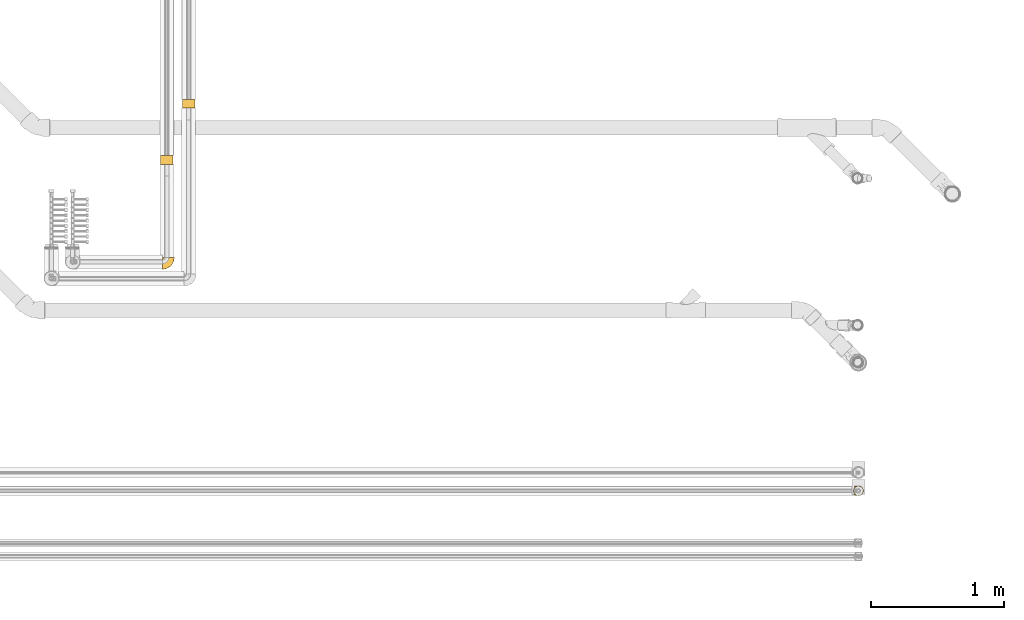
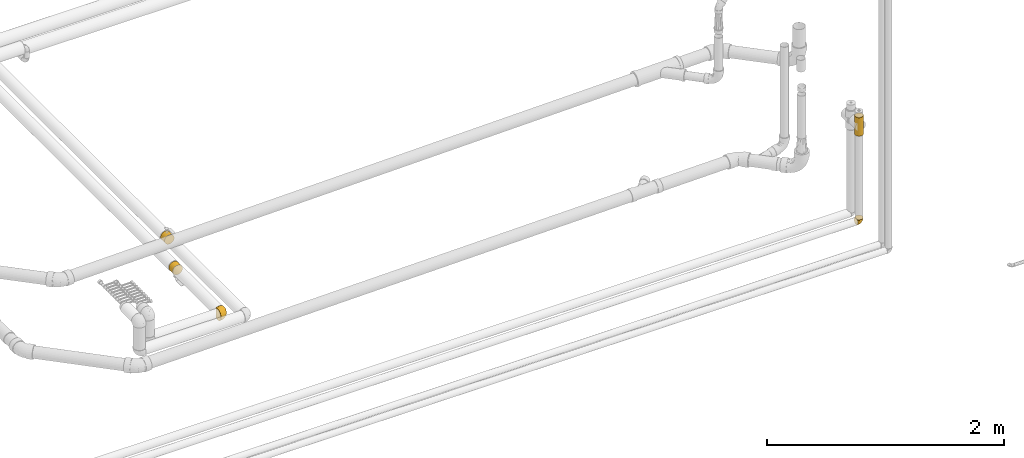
# One storey, part 19 of 83: 5 coverings.
"""IFC2X3 building model written with IfcOpenShell, lengths in millimetres."""

from ifc_helpers import new_model, entity, si_unit, converted_unit, derived_unit, direction, frame, origin_with_axes, place, context, subcontext, project, spatial, open_shell, surface_model, source, transform, mapped, element, save


model = new_model("IFC2X3")

# Units and contexts
model_context = context("Model", 3, precision=0.01, world=frame((0.0, 4.29681676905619e-09, 0.0)), true_north=direction((4.01073788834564e-13, 1.0)))
plan_context = context("Plan", 3, precision=0.01, world=frame((0.0, 4.29681676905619e-09, 0.0)), true_north=direction((4.01073788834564e-13, 1.0)))
body_context = subcontext(model_context, "Body", "Model", "MODEL_VIEW")
ifc_project = project(units=[converted_unit("PLANEANGLEUNIT", "DEGREE", entity("IfcPositiveLengthMeasure", 0.0174532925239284), si_unit("PLANEANGLEUNIT", "RADIAN"), dimensions=[0, 0, 0, 0, 0, 0, 0]), si_unit("AREAUNIT", "SQUARE_METRE"), si_unit("LENGTHUNIT", "METRE", prefix="MILLI"), si_unit("MASSUNIT", "GRAM", prefix="KILO"), si_unit("POWERUNIT", "WATT"), si_unit("PRESSUREUNIT", "PASCAL"), si_unit("FORCEUNIT", "NEWTON", prefix="KILO"), si_unit("ELECTRICVOLTAGEUNIT", "VOLT"), si_unit("ELECTRICCURRENTUNIT", "AMPERE"), si_unit("THERMODYNAMICTEMPERATUREUNIT", "DEGREE_CELSIUS"), si_unit("TIMEUNIT", "SECOND"), si_unit("VOLUMEUNIT", "CUBIC_METRE"), derived_unit("LINEARVELOCITYUNIT", [(si_unit("LENGTHUNIT", "METRE"), 1), (si_unit("TIMEUNIT", "SECOND"), -1)]), derived_unit("VOLUMETRICFLOWRATEUNIT", [(si_unit("VOLUMEUNIT", "CUBIC_METRE"), 1), (si_unit("TIMEUNIT", "SECOND"), -1)]), derived_unit("THERMALTRANSMITTANCEUNIT", [(si_unit("POWERUNIT", "WATT"), 1), (si_unit("THERMODYNAMICTEMPERATUREUNIT", "KELVIN"), -1), (si_unit("AREAUNIT", "SQUARE_METRE"), -1)]), derived_unit("SOUNDPRESSUREUNIT", [(si_unit("PRESSUREUNIT", "PASCAL"), 1)])], contexts=[model_context, plan_context])

# Site, building, storey
site_placement = place(None, frame((0.0, -4.29681676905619e-09, 0.0), z_axis=(0.0, 0.0, 1.0), x_axis=(1.0, 0.0, 0.0)))
site = spatial("IfcSite", under=ifc_project, at=site_placement, Name="ENGM", CompositionType="ELEMENT")
building_placement = place(site_placement, frame((0.0, 4.29681676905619e-09, 0.0), z_axis=(0.0, 0.0, 1.0), x_axis=(1.0, 0.0, 0.0)))
building = spatial("IfcBuilding", under=site, at=building_placement, Name="TI", CompositionType="ELEMENT")
storey_placement = place(building_placement, frame((0.0, 0.0, 204000.0), z_axis=(0.0, 0.0, 1.0), x_axis=(1.0, 0.0, 0.0)))
storey = spatial("IfcBuildingStorey", under=building, at=storey_placement, Name="Nivå D", CompositionType="ELEMENT", Elevation=204000.0)

# Coverings
shared_shape_1 = source(origin_with_axes(), body_context, "Body", "SurfaceModel", [
    surface_model("IfcShellBasedSurfaceModel", [(-23.07704, 33.8, -52.01019), (-33.34059, 33.8, -46.10873), (-11.7964, 33.8, -55.66377), (12.64674, 33.8, -55.47675), (24.67561, 33.8, -51.27108), (0.0, 33.8, -56.9), (-33.8, -14.7268, -54.96118), (-33.8, -28.45, -49.27684), (-33.8, -40.23438, -40.23438), (-33.8, 33.34059, -46.10873), (-33.8, 33.34059, 46.10873), (-33.47515, 33.47515, 46.10873), (-33.47515, 33.47515, -46.10873), (-33.34059, 33.8, 46.10873), (-32.08364, 25.44579, -50.9801), (-33.67665, 33.39168, -46.10873), (-30.83312, 26.67841, -50.56853), (-15.87334, 20.68765, -55.70718), (-10.71417, 10.71417, -56.9), (-22.5985, 20.69411, -54.43708), (-25.35, 2.26417, -56.9), (-28.51435, 18.40378, -54.135), (-23.15334, 12.21937, -56.06086), (-33.43341, 33.5759, -46.10873), (-33.39168, 33.67665, -46.10873), (-18.4122, 28.52188, -54.13163), (-33.8, 11.78813, -55.66552), (-33.8, 23.06476, -52.01564), (-25.86292, 27.59402, -51.71796), (-10.594, 29.15837, -55.99022), (-2.26417, 25.35, -56.9), (-33.5759, 33.43341, -46.10873), (-9.88716, 23.89498, -56.34654), (-4.52834, 16.9, -56.9), (-26.53944, 21.15799, -53.5551), (-29.02753, 27.72284, -50.57484), (-16.9, 4.52834, -56.9), (-33.8, 0.0, -56.9), (-1.89548, 26.72596, -56.9), (-21.08164, -9.83471, -55.69449), (-12.19459, -6.31894, -55.67005), (1.29929, -23.83547, -45.86), (-3.44185, -39.07106, -34.63852), (-16.08681, -32.30654, -45.14181), (-12.53249, -17.54431, -52.56875), (-24.14956, -20.93038, -52.56875), (19.51212, -39.57784, 0.0), (-5.77216, -52.46082, 0.0), (2.43768, -47.9375, -12.04628), (27.50756, -27.50756, -20.95211), (9.13936, -40.31341, -23.42618), (12.63976, -31.02468, -33.56907), (29.0814, 21.55934, -48.18545), (17.10597, 20.64085, -53.71172), (-33.8, -54.96118, -14.7268), (-15.67837, -54.0783, -10.47602), (-33.8, -56.9, 0.0), (-20.00402, -43.92696, -34.63852), (-33.8, -49.27684, -28.45), (-11.38936, -49.61057, -21.77469), (25.8449, -21.54003, -31.23005), (42.40332, -10.087, -17.51383), (18.75415, -18.3345, -40.2421), (10.4419, -13.49624, -47.73768), (21.60417, -5.46943, -45.54281), (9.23089, 7.63542, -54.43656), (24.82732, 7.97866, -48.18545), (37.87075, 15.27302, -40.2421), (35.46718, 33.8, -44.4937), (44.48008, 33.8, -35.48425), (-0.20989, 3.79953, -55.7794), (50.92012, 11.89905, -18.79808), (51.26203, 33.8, -24.69442), (55.47253, 33.8, -12.66523), (30.72116, -7.8177, -37.28829), (41.22013, 0.75864, -30.27981), (46.66377, 18.13685, -30.27981), (18.39178, -38.38046, -13.50943), (32.12068, -27.27232, -9.7235), (52.46082, 5.77216, 0.0), (56.9, 33.8, 0.0), (39.57784, -19.51212, 0.0), (-26.72596, 1.89548, -56.9), (1.285, -6.94906, -53.27967), (24.84384, 7.9713, 48.17409), (29.09917, 21.55599, 48.17409), (17.12404, 20.63566, 53.70514), (-16.07985, -54.20588, 10.23371), (-2.14575, -46.559, 21.77469), (1.72334, -48.57904, 10.55822), (14.17314, -39.78008, 17.81974), (-19.63149, -51.39867, 21.77469), (31.54782, -1.01192, 40.22682), (30.88333, -13.90178, 32.6927), (41.23057, 0.75415, 30.26172), (-33.8, -49.27684, 28.45), (-33.8, -54.96118, 14.7268), (18.76512, -18.34538, 40.22666), (20.72445, -26.00089, 31.88611), (51.27108, 33.8, 24.67561), (50.9267, 11.89822, 18.77928), (55.47675, 33.8, 12.64674), (-16.6221, -7.67112, 55.80919), (-16.9, 4.52834, 56.9), (-25.35, 2.26417, 56.9), (-13.80199, -42.5668, 34.63852), (-33.8, -40.23438, 40.23438), (-21.83958, -33.58531, 45.14181), (-33.8, -28.45, 49.27684), (-19.37969, -19.87123, 52.56875), (24.69442, 33.8, 51.26203), (12.66523, 33.8, 55.47253), (7.60894, -34.46398, 33.43332), (-7.48103, -29.3755, 45.14181), (26.00634, -33.17128, 10.14462), (27.51051, -27.51051, 20.94155), (-25.39793, -9.93514, 55.87819), (44.4937, 33.8, 35.46718), (46.67489, 18.13455, 30.26172), (-33.8, -14.7268, 54.96118), (-1.12035, 1.70754, 55.61965), (-4.52834, 16.9, 56.9), (-10.71417, 10.71417, 56.9), (42.40865, -10.09182, 17.4921), (35.48425, 33.8, 44.48008), (37.8857, 15.26915, 40.22666), (9.23512, 7.61904, 54.43287), (0.0, 33.8, 56.9), (-1.89548, 26.72596, 56.9), (6.61304, -17.87206, 47.18516), (-9.78518, -15.45307, 52.88466), (14.61926, -5.8279, 49.09168), (-9.48758, -2.99227, 55.96008), (-33.8, 0.0, 56.9), (7.94789, -26.49594, 40.91874), (-1.31124, -9.39277, 53.17563), (-29.15757, 10.59376, 55.9903), (-23.89175, 9.87937, 56.34772), (-24.61782, 17.65103, 54.82579), (-29.75291, 25.81063, 51.18968), (-28.51435, 18.40378, 54.135), (-15.87334, 20.68765, 55.70718), (-25.86292, 27.59402, 51.71796), (-22.5985, 20.69411, 54.43708), (-26.85079, 30.69652, 50.51467), (-33.39168, 33.67665, 46.10873), (-33.43341, 33.5759, 46.10873), (-33.8, 11.78813, 55.66552), (-33.8, 23.06476, 52.01564), (-11.775, 33.8, 55.6683), (-23.05704, 33.8, 52.01906), (-25.55723, 31.93363, 50.94173), (-18.39517, 28.5074, 54.13837), (-2.26417, 25.35, 56.9), (-33.67665, 33.39168, 46.10873), (-28.3466, 27.59544, 50.84629), (-33.5759, 33.43341, 46.10873)], [open_shell([[[0, 1, 2]], [[3, 1, 4]], [[5, 2, 1]], [[5, 1, 3]], [[6, 7, 8]], [[9, 10, 11]], [[12, 9, 11]], [[13, 1, 11]], [[12, 11, 1]], [[14, 15, 16]], [[17, 18, 19]], [[20, 21, 22]], [[23, 24, 25]], [[9, 15, 14]], [[26, 27, 14]], [[28, 12, 23]], [[2, 29, 0]], [[23, 25, 28]], [[17, 19, 28]], [[0, 24, 1]], [[29, 5, 30]], [[15, 31, 16]], [[17, 32, 33]], [[0, 25, 24]], [[32, 29, 30]], [[22, 21, 34]], [[33, 32, 30]], [[28, 19, 35]], [[25, 32, 17]], [[25, 17, 28]], [[18, 36, 19]], [[17, 33, 18]], [[9, 14, 27]], [[16, 34, 21]], [[34, 35, 19]], [[14, 16, 21]], [[12, 35, 31]], [[35, 16, 31]], [[22, 19, 36]], [[35, 34, 16]], [[28, 35, 12]], [[19, 22, 34]], [[20, 37, 26]], [[20, 26, 21]], [[22, 36, 20]], [[29, 32, 25]], [[0, 29, 25]], [[29, 2, 5]], [[38, 5, 3]], [[39, 36, 40]], [[41, 42, 43]], [[44, 45, 39]], [[46, 47, 48]], [[49, 50, 51]], [[52, 53, 4]], [[45, 7, 6]], [[54, 55, 56]], [[7, 43, 8]], [[57, 58, 8]], [[7, 45, 43]], [[48, 59, 50]], [[58, 57, 59]], [[49, 60, 61]], [[62, 63, 64]], [[65, 33, 53]], [[53, 66, 65]], [[67, 66, 52]], [[67, 68, 69]], [[53, 33, 38]], [[53, 3, 4]], [[18, 70, 40]], [[71, 72, 73]], [[74, 67, 75]], [[76, 67, 69]], [[61, 75, 71]], [[46, 77, 78]], [[74, 75, 60]], [[58, 59, 54]], [[69, 72, 76]], [[73, 79, 71]], [[73, 80, 79]], [[75, 76, 71]], [[49, 51, 60]], [[61, 79, 81]], [[50, 59, 42]], [[4, 68, 52]], [[55, 59, 48]], [[38, 3, 53]], [[41, 43, 44]], [[57, 43, 42]], [[6, 37, 82]], [[66, 74, 64]], [[65, 83, 70]], [[71, 76, 72]], [[67, 76, 75]], [[67, 52, 68]], [[53, 52, 66]], [[79, 61, 71]], [[78, 61, 81]], [[83, 41, 44]], [[41, 62, 51]], [[40, 44, 39]], [[65, 66, 64]], [[51, 50, 42]], [[50, 77, 48]], [[50, 49, 77]], [[55, 48, 47]], [[56, 55, 47]], [[54, 59, 55]], [[78, 77, 49]], [[46, 48, 77]], [[61, 78, 49]], [[46, 78, 81]], [[41, 51, 42]], [[65, 70, 33]], [[51, 62, 60]], [[74, 60, 62]], [[61, 60, 75]], [[64, 74, 62]], [[67, 74, 66]], [[63, 62, 41]], [[64, 63, 65]], [[41, 83, 63]], [[65, 63, 83]], [[43, 57, 8]], [[59, 57, 42]], [[39, 6, 82]], [[43, 45, 44]], [[6, 39, 45]], [[36, 39, 82]], [[18, 40, 36]], [[83, 44, 40]], [[40, 70, 83]], [[33, 70, 18]], [[84, 85, 86]], [[56, 47, 87]], [[88, 89, 90]], [[87, 88, 91]], [[92, 93, 94]], [[95, 96, 91]], [[97, 98, 93]], [[99, 100, 101]], [[102, 103, 104]], [[79, 101, 100]], [[91, 105, 95]], [[88, 87, 89]], [[106, 107, 108]], [[108, 107, 109]], [[110, 111, 86]], [[112, 113, 105]], [[114, 115, 90]], [[109, 102, 116]], [[99, 117, 118]], [[108, 109, 119]], [[120, 121, 122]], [[100, 99, 118]], [[80, 101, 79]], [[123, 100, 94]], [[93, 123, 94]], [[117, 124, 125]], [[126, 84, 86]], [[94, 118, 125]], [[124, 110, 85]], [[94, 125, 92]], [[86, 121, 126]], [[106, 95, 105]], [[112, 88, 90]], [[85, 125, 124]], [[92, 125, 84]], [[111, 127, 128]], [[121, 86, 128]], [[100, 123, 79]], [[113, 129, 130]], [[111, 128, 86]], [[97, 131, 129]], [[131, 84, 126]], [[112, 105, 88]], [[107, 105, 113]], [[122, 132, 120]], [[131, 97, 92]], [[102, 132, 103]], [[119, 116, 133]], [[134, 97, 129]], [[86, 85, 110]], [[125, 85, 84]], [[125, 118, 117]], [[100, 118, 94]], [[114, 123, 115]], [[79, 123, 81]], [[120, 131, 126]], [[132, 122, 103]], [[129, 131, 135]], [[116, 102, 104]], [[130, 102, 109]], [[133, 116, 104]], [[109, 116, 119]], [[131, 92, 84]], [[93, 92, 97]], [[97, 134, 98]], [[123, 93, 115]], [[90, 98, 112]], [[115, 93, 98]], [[130, 129, 135]], [[134, 113, 112]], [[105, 107, 106]], [[109, 107, 113]], [[113, 130, 109]], [[132, 130, 135]], [[130, 132, 102]], [[132, 135, 120]], [[131, 120, 135]], [[121, 120, 126]], [[87, 91, 96]], [[105, 91, 88]], [[56, 87, 96]], [[87, 47, 89]], [[47, 46, 89]], [[114, 90, 89]], [[114, 89, 46]], [[90, 115, 98]], [[46, 81, 114]], [[123, 114, 81]], [[113, 134, 129]], [[98, 134, 112]], [[104, 136, 133]], [[103, 137, 104]], [[138, 139, 140]], [[141, 142, 143]], [[144, 145, 146]], [[147, 136, 148]], [[149, 150, 151]], [[141, 152, 142]], [[152, 153, 149]], [[154, 10, 148]], [[153, 127, 149]], [[144, 151, 145]], [[11, 142, 146]], [[137, 136, 104]], [[137, 138, 140]], [[140, 154, 148]], [[139, 154, 140]], [[155, 156, 139]], [[143, 122, 141]], [[13, 145, 151]], [[144, 142, 152]], [[142, 144, 146]], [[152, 141, 121]], [[122, 143, 103]], [[122, 121, 141]], [[151, 144, 152]], [[149, 151, 152]], [[13, 151, 150]], [[152, 121, 153]], [[138, 103, 143]], [[136, 137, 140]], [[148, 136, 140]], [[136, 147, 133]], [[103, 138, 137]], [[155, 142, 11]], [[143, 142, 155]], [[143, 139, 138]], [[154, 139, 156]], [[156, 155, 11]], [[139, 143, 155]], [[26, 14, 21]], [[117, 99, 101]], [[1, 13, 150]], [[124, 117, 1]], [[149, 127, 111]], [[73, 101, 80]], [[148, 133, 147]], [[1, 150, 149]], [[95, 56, 96]], [[1, 110, 124]], [[10, 9, 148]], [[26, 37, 108]], [[6, 108, 37]], [[6, 58, 56]], [[58, 6, 8]], [[56, 58, 54]], [[101, 73, 1]], [[108, 6, 106]], [[56, 95, 106]], [[149, 110, 1]], [[149, 111, 110]], [[117, 101, 1]], [[72, 69, 68]], [[1, 73, 72]], [[4, 72, 68]], [[4, 1, 72]], [[119, 9, 27]], [[108, 119, 27]], [[26, 108, 27]], [[148, 9, 133]], [[119, 133, 9]], [[6, 56, 106]]])]),
])
covering_1_placement = place(storey_placement, frame((603920.1909, 693361.26264, 6040.51081000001), z_axis=(-2.29999999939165e-05, 0.0, 0.9999999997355), x_axis=(0.9999999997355, 0.0, 2.29999999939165e-05)))
element("IfcCovering", 1, at=covering_1_placement, inside=storey, Name="BI11T - Rørskål m/Al.folie - varme 60-25", PredefinedType="INSULATION", context=body_context, shape_type="MappedRepresentation", body=[
    mapped(shared_shape_1, transform((0.0, 0.0, 0.0), scale=1.0)),
])
shared_shape_2 = source(origin_with_axes(), body_context, "Body", "SurfaceModel", [
    surface_model("IfcShellBasedSurfaceModel", [(33.5, 41.13621, -23.75), (33.5, 12.2939, -45.88147), (33.5, 23.75, -41.13621), (33.5, 33.58757, -33.58757), (33.5, 45.88147, -12.2939), (33.5, 47.5, 0.0), (33.5, -23.75, -41.13621), (33.5, -45.88147, 12.2939), (33.5, 0.0, -47.5), (33.5, -12.2939, -45.88147), (33.5, -41.13621, -23.75), (33.5, -33.58757, -33.58757), (33.5, -45.88147, -12.2939), (33.5, -47.5, 0.0), (33.5, 0.0, 47.5), (33.5, 45.88147, 12.2939), (33.5, 41.13621, 23.75), (33.5, 23.75, 41.13621), (33.5, 33.58757, 33.58757), (33.5, 12.2939, 45.88147), (33.5, -12.2939, 45.88147), (33.5, -33.58757, 33.58757), (33.5, -41.13621, 23.75), (33.5, -23.75, 41.13621), (-33.5, 0.0, 47.5), (-33.5, 12.2939, 45.88147), (-33.5, 23.75, 41.13621), (-33.5, 41.13621, 23.75), (-33.5, -12.2939, 45.88147), (-33.5, 33.58757, 33.58757), (-33.5, 41.13621, -23.75), (-33.5, -33.58757, 33.58757), (-33.5, -23.75, 41.13621), (-33.5, -45.88147, 12.2939), (-33.5, -41.13621, 23.75), (-33.5, -45.88147, -12.2939), (-33.5, -47.5, 0.0), (-33.5, 45.88147, 12.2939), (-33.5, 47.5, 0.0), (-33.5, 45.88147, -12.2939), (-33.5, 23.75, -41.13621), (-33.5, 12.2939, -45.88147), (-33.5, 33.58757, -33.58757), (-33.5, -41.13621, -23.75), (-33.5, -23.75, -41.13621), (-33.5, -33.58757, -33.58757), (-33.5, 0.0, -47.5), (-33.5, -12.2939, -45.88147)], [open_shell([[[0, 1, 2]], [[0, 2, 3]], [[0, 4, 5]], [[1, 0, 6]], [[0, 7, 6]], [[8, 6, 9]], [[8, 1, 6]], [[6, 10, 11]], [[10, 6, 12]], [[6, 13, 12]], [[0, 5, 7]], [[14, 15, 16]], [[17, 16, 18]], [[17, 19, 14]], [[17, 14, 16]], [[15, 14, 20]], [[7, 21, 22]], [[13, 6, 7]], [[21, 20, 23]], [[20, 21, 7]], [[15, 20, 7]], [[7, 5, 15]], [[24, 25, 26]], [[24, 26, 27]], [[24, 27, 28]], [[27, 26, 29]], [[28, 27, 30]], [[28, 31, 32]], [[31, 28, 33]], [[31, 33, 34]], [[33, 28, 30]], [[33, 35, 36]], [[27, 37, 38]], [[38, 39, 30]], [[33, 30, 35]], [[40, 41, 30]], [[40, 30, 42]], [[35, 30, 41]], [[43, 44, 45]], [[44, 43, 35]], [[44, 46, 47]], [[44, 35, 41]], [[41, 46, 44]], [[30, 27, 38]], [[38, 37, 15]], [[5, 38, 15]], [[27, 16, 15]], [[16, 27, 29]], [[37, 27, 15]], [[29, 18, 16]], [[17, 26, 25]], [[19, 25, 24]], [[18, 26, 17]], [[17, 25, 19]], [[24, 14, 19]], [[26, 18, 29]], [[20, 28, 32]], [[23, 32, 31]], [[24, 28, 14]], [[14, 28, 20]], [[32, 23, 20]], [[31, 21, 23]], [[22, 34, 33]], [[7, 33, 36]], [[21, 34, 22]], [[22, 33, 7]], [[36, 13, 7]], [[34, 21, 31]], [[12, 35, 43]], [[10, 43, 45]], [[36, 35, 13]], [[13, 35, 12]], [[43, 10, 12]], [[45, 11, 10]], [[6, 44, 47]], [[9, 47, 46]], [[11, 44, 6]], [[6, 47, 9]], [[46, 8, 9]], [[44, 11, 45]], [[1, 41, 40]], [[2, 40, 42]], [[46, 41, 8]], [[8, 41, 1]], [[40, 2, 1]], [[42, 3, 2]], [[0, 30, 39]], [[4, 39, 38]], [[3, 30, 0]], [[0, 39, 4]], [[38, 5, 4]], [[30, 3, 42]]])]),
])
covering_2_placement = place(storey_placement, frame((604084.1909, 694552.67748, 6040.48868000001), z_axis=(0.0, 0.0, 1.0), x_axis=(0.0, -1.0, 0.0)))
element("IfcCovering", 2, at=covering_2_placement, inside=storey, Name="BI11T - Rørskål m/Al.folie - varme 60-25", PredefinedType="INSULATION", context=body_context, shape_type="MappedRepresentation", body=[
    mapped(shared_shape_2, transform((0.0, 0.0, 0.0), scale=1.0)),
])
shared_shape_3 = source(origin_with_axes(), body_context, "Body", "SurfaceModel", [
    surface_model("IfcShellBasedSurfaceModel", [(33.5, 41.13621, -23.75), (33.5, 23.75, -41.13621), (33.5, 33.58757, -33.58757), (33.5, 45.88147, -12.2939), (33.5, 47.5, 0.0), (33.5, 0.0, -47.5), (33.5, -23.75, -41.13621), (33.5, -12.2939, -45.88147), (33.5, 12.2939, -45.88147), (33.5, -41.13621, -23.75), (33.5, -33.58757, -33.58757), (33.5, -45.88147, -12.2939), (33.5, -47.5, 0.0), (33.5, 23.75, 41.13621), (33.5, 12.2939, 45.88147), (33.5, 0.0, 47.5), (33.5, -45.88147, 12.2939), (33.5, -33.58757, 33.58757), (33.5, -41.13621, 23.75), (33.5, -12.2939, 45.88147), (33.5, -23.75, 41.13621), (-33.5, 0.0, 47.5), (-33.5, 12.2939, 45.88147), (-33.5, 23.75, 41.13621), (-33.5, -12.2939, 45.88147), (-33.5, -33.58757, 33.58757), (-33.5, -23.75, 41.13621), (-33.5, -45.88147, 12.2939), (-33.5, -41.13621, 23.75), (-33.5, -45.88147, -12.2939), (-33.5, -47.5, 0.0), (-33.5, 47.5, 0.0), (-33.5, 45.88147, -12.2939), (-33.5, 41.13621, -23.75), (-33.5, 23.75, -41.13621), (-33.5, 33.58757, -33.58757), (-33.5, -23.75, -41.13621), (-33.5, 0.0, -47.5), (-33.5, -12.2939, -45.88147), (-33.5, 12.2939, -45.88147), (-33.5, 45.88147, 12.2939), (33.5, 45.88147, 12.2939), (-33.5, 41.13621, 23.75), (33.5, 41.13621, 23.75), (-33.5, 33.58757, 33.58757), (33.5, 33.58757, 33.58757), (-33.5, -41.13621, -23.75), (-33.5, -33.58757, -33.58757)], [open_shell([[[0, 1, 2]], [[0, 3, 4]], [[5, 6, 7]], [[5, 8, 6]], [[6, 9, 10]], [[9, 6, 11]], [[6, 12, 11]], [[13, 14, 15]], [[16, 17, 18]], [[17, 19, 20]], [[19, 17, 16]], [[21, 22, 23]], [[24, 25, 26]], [[25, 24, 27]], [[25, 27, 28]], [[27, 29, 30]], [[31, 32, 33]], [[34, 33, 35]], [[36, 37, 38]], [[39, 37, 36]], [[31, 40, 41]], [[4, 31, 41]], [[42, 43, 41]], [[43, 42, 44]], [[40, 42, 41]], [[44, 45, 43]], [[13, 23, 22]], [[14, 22, 21]], [[45, 23, 13]], [[13, 22, 14]], [[21, 15, 14]], [[23, 45, 44]], [[19, 24, 26]], [[20, 26, 25]], [[21, 24, 15]], [[15, 24, 19]], [[26, 20, 19]], [[25, 17, 20]], [[18, 28, 27]], [[16, 27, 30]], [[17, 28, 18]], [[18, 27, 16]], [[30, 12, 16]], [[28, 17, 25]], [[11, 29, 46]], [[9, 46, 47]], [[30, 29, 12]], [[12, 29, 11]], [[46, 9, 11]], [[47, 10, 9]], [[6, 36, 38]], [[7, 38, 37]], [[10, 36, 6]], [[6, 38, 7]], [[37, 5, 7]], [[36, 10, 47]], [[8, 39, 34]], [[1, 34, 35]], [[37, 39, 5]], [[5, 39, 8]], [[34, 1, 8]], [[35, 2, 1]], [[0, 33, 32]], [[3, 32, 31]], [[2, 33, 0]], [[0, 32, 3]], [[31, 4, 3]], [[33, 2, 35]], [[29, 47, 46]], [[47, 29, 36]], [[41, 0, 4]], [[43, 19, 41]], [[24, 44, 42]], [[19, 43, 15]], [[21, 23, 44]], [[13, 15, 45]], [[19, 16, 0]], [[0, 41, 19]], [[33, 34, 40]], [[39, 40, 34]], [[29, 27, 36]], [[15, 43, 45]], [[1, 12, 8]], [[12, 1, 0]], [[12, 6, 8]], [[12, 0, 16]], [[44, 24, 21]], [[39, 24, 42]], [[27, 24, 36]], [[40, 39, 42]], [[36, 24, 39]], [[31, 33, 40]]])]),
])
covering_3_placement = place(storey_placement, frame((603920.1909, 694130.23028, 6040.50786000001), z_axis=(2.999999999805e-06, -1.0999999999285e-05, -0.999999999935), x_axis=(-3.29999999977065e-11, -0.9999999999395, 1.09999999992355e-05)))
element("IfcCovering", 3, at=covering_3_placement, inside=storey, Name="BI11T - Rørskål m/Al.folie - varme 60-25", PredefinedType="INSULATION", context=body_context, shape_type="MappedRepresentation", body=[
    mapped(shared_shape_3, transform((0.0, 0.0, 0.0), scale=1.0)),
])
shared_shape_4 = source(origin_with_axes(), body_context, "Body", "SurfaceModel", [
    surface_model("IfcShellBasedSurfaceModel", [(15.19145, 28.0, 31.53125), (21.82748, 28.0, 27.35984), (27.36817, 28.0, 21.81705), (31.53635, 28.0, 15.18087), (34.12349, 28.0, 7.78379), (7.79212, 28.0, 34.12159), (-22.22052, 28.0, 27.0416), (0.0, 28.0, 35.0), (-7.94633, 28.0, 34.08601), (-15.48877, 28.0, 31.38627), (-27.7886, 28.0, 21.27895), (35.0, 28.0, 0.0), (34.12159, 28.0, -7.79212), (31.53125, 28.0, -15.19145), (-27.7886, 28.0, -21.27895), (27.35984, 28.0, -21.82748), (21.81705, 28.0, -27.36817), (15.18087, 28.0, -31.53635), (7.78379, 28.0, -34.12349), (-15.50275, 28.0, -31.37937), (-22.2318, 28.0, -27.03234), (-7.96055, 28.0, -34.08269), (0.0, 28.0, -35.0), (-28.0, 27.7886, -21.27895), (-28.0, 22.224, -27.03875), (-28.0, 15.49576, -31.38282), (-28.0, -30.31089, -17.5), (-28.0, 7.95617, -34.08371), (-28.0, 0.0, 35.0), (-28.0, 27.7886, 21.27895), (-28.0, 22.224, 27.03875), (-28.0, 15.49576, 31.38282), (-28.0, 7.95617, 34.08371), (-28.0, -9.05867, -33.8074), (-28.0, 0.0, -35.0), (-28.0, -17.5, -30.31089), (-28.0, -9.05867, 33.8074), (-28.0, -24.74874, -24.74874), (-28.0, -33.8074, -9.05867), (-28.0, -17.5, 30.31089), (-28.0, -30.31089, 17.5), (-28.0, -24.74874, 24.74874), (-28.0, -35.0, 0.0), (-28.0, -33.8074, 9.05867), (-27.85052, 27.85052, 21.27895), (-27.85052, 27.85052, -21.27895), (-3.75129, 14.0, -35.0), (-14.92657, 14.92657, -33.68284), (-21.8445, 21.41301, -29.40386), (-14.0, 3.75129, -35.0), (23.72212, -5.62556, -9.48024), (31.1025, 12.76605, -11.56454), (30.20441, 3.89094, 0.0), (-18.18681, -5.66753, -34.2788), (-11.29412, -3.02537, -34.24358), (-2.5838, -13.5888, -28.19295), (-6.45577, -23.43778, -21.30665), (-15.2385, -19.62657, -27.76737), (-12.15923, -10.24299, -32.33579), (-20.81202, -12.76505, -32.33578), (14.69526, 9.28731, -29.63858), (17.76561, 19.13666, -29.63858), (23.07497, 14.83644, -24.75346), (-8.87564, 8.87564, -35.0), (-1.95197, 4.75655, -34.31096), (-1.45898, 22.555, -35.0), (21.37799, -4.69325, -15.82081), (-9.67073, -31.63978, -6.49098), (-12.30699, -30.25922, -13.39392), (32.51315, 15.49775, 0.0), (-18.19594, -26.89881, -21.30665), (13.02317, -12.80644, -18.25466), (17.82285, -3.4551, -21.54839), (4.64616, 8.16411, -33.48076), (10.3033, 18.12821, -33.0376), (28.58062, 17.04239, -18.62661), (5.65651, -4.27618, -29.62872), (-1.717, -2.52072, -32.7758), (20.70088, 5.39096, -23.76693), (24.78458, 4.8651, -18.62661), (16.49047, -14.16985, -10.77522), (-1.81998, -26.11013, -13.92483), (1.45257, -26.68245, -7.84367), (7.94693, -20.85269, -12.60127), (11.62818, -20.28708, -6.08902), (16.54773, -16.54773, 0.0), (23.37607, -6.32839, 0.0), (-15.49774, -32.51315, 0.0), (3.79411, -17.38162, -21.76345), (9.58627, -9.00275, -24.75346), (-22.555, 1.45898, -35.0), (14.0428, 0.27523, -26.92532), (9.49919, 2.95493, -30.54185), (-3.89094, -30.20441, 0.0), (6.32839, -23.37607, 0.0), (-17.2311, -11.96858, 32.33578), (-9.68071, -31.60728, 6.66862), (10.54731, -19.25559, 11.70853), (23.73555, -5.60692, 9.4763), (23.08502, 14.83764, 24.74402), (28.58818, 17.0463, 18.61598), (-8.94302, -17.47502, 27.76737), (-13.94691, -25.96768, 21.30665), (1.2835, -20.12726, 20.54423), (14.70827, 9.29054, 29.6319), (17.77693, 19.13923, 29.6319), (10.313, 18.12748, 33.03425), (17.1549, -8.83947, 17.56), (-14.67787, -4.16246, 34.33062), (-14.0, 3.75129, 35.0), (-21.0, 1.87564, 35.0), (-1.45898, 22.555, 35.0), (-17.23048, -31.9313, 11.96521), (-19.32662, -20.5378, 27.76737), (2.03798, -26.32265, 7.99597), (-6.13202, -28.23343, 13.39392), (31.10721, 12.77086, 11.55496), (1.36329, -9.42213, 29.01952), (-10.07203, -8.75018, 32.53996), (24.79491, 4.87203, 18.61598), (-9.08933, -0.64544, 34.42383), (-2.79969, 3.19623, 34.21754), (-3.75129, 14.0, 35.0), (-8.87564, 8.87564, 35.0), (18.56628, 3.21128, 24.74429), (4.64898, 8.15227, 33.47816), (-21.47185, -5.98166, 34.3715), (9.60711, -8.99503, 24.74402), (7.46578, -0.84917, 30.18423), (1.96406, -14.92956, 25.13866), (-3.70656, -4.31351, 32.7196), (-14.92718, 14.92718, 33.6826), (-21.40542, 21.84506, 29.4072)], [open_shell([[[0, 1, 2]], [[2, 3, 4]], [[0, 2, 5]], [[6, 2, 4]], [[7, 5, 8]], [[5, 2, 8]], [[8, 6, 9]], [[8, 2, 6]], [[10, 6, 4]], [[4, 11, 10]], [[11, 12, 13]], [[14, 11, 13]], [[15, 16, 17]], [[14, 13, 15]], [[18, 15, 17]], [[14, 19, 20]], [[19, 14, 21]], [[14, 22, 21]], [[22, 14, 18]], [[14, 15, 18]], [[11, 14, 10]], [[23, 24, 25]], [[26, 25, 27]], [[23, 25, 28]], [[26, 28, 25]], [[29, 23, 30]], [[31, 28, 32]], [[28, 31, 30]], [[23, 28, 30]], [[33, 27, 34]], [[33, 35, 26]], [[26, 36, 28]], [[26, 35, 37]], [[36, 26, 38]], [[39, 40, 41]], [[40, 39, 36]], [[40, 42, 43]], [[40, 36, 38]], [[38, 42, 40]], [[26, 27, 33]], [[23, 29, 44]], [[45, 23, 44]], [[10, 14, 44]], [[45, 44, 14]], [[46, 47, 21]], [[25, 48, 47]], [[34, 27, 49]], [[49, 27, 47]], [[25, 24, 48]], [[24, 23, 45]], [[45, 14, 20]], [[47, 48, 19]], [[47, 46, 49]], [[19, 21, 47]], [[21, 22, 46]], [[19, 48, 20]], [[27, 25, 47]], [[45, 20, 48]], [[45, 48, 24]], [[50, 51, 52]], [[53, 49, 54]], [[55, 56, 57]], [[58, 59, 53]], [[60, 61, 62]], [[63, 64, 54]], [[65, 22, 18]], [[51, 50, 66]], [[67, 38, 68]], [[51, 12, 69]], [[70, 26, 37]], [[35, 59, 57]], [[35, 57, 37]], [[26, 70, 68]], [[59, 35, 33]], [[71, 72, 66]], [[73, 46, 74]], [[65, 18, 74]], [[15, 13, 75]], [[62, 16, 15]], [[74, 46, 65]], [[74, 18, 17]], [[61, 74, 17]], [[76, 55, 77]], [[74, 60, 73]], [[78, 79, 72]], [[78, 62, 79]], [[71, 66, 80]], [[67, 81, 82]], [[51, 13, 12]], [[52, 51, 69]], [[79, 75, 51]], [[26, 68, 38]], [[75, 62, 15]], [[83, 84, 82]], [[16, 61, 17]], [[81, 83, 82]], [[85, 50, 86]], [[38, 67, 87]], [[71, 88, 89]], [[54, 64, 77]], [[55, 57, 58]], [[70, 57, 56]], [[33, 34, 90]], [[60, 91, 92]], [[73, 77, 64]], [[12, 11, 69]], [[51, 75, 13]], [[62, 75, 79]], [[62, 61, 16]], [[74, 61, 60]], [[77, 55, 58]], [[55, 89, 88]], [[54, 58, 53]], [[91, 76, 92]], [[87, 67, 93]], [[87, 42, 38]], [[84, 85, 94]], [[94, 93, 82]], [[67, 82, 93]], [[80, 84, 83]], [[94, 82, 84]], [[81, 67, 68]], [[68, 56, 81]], [[88, 81, 56]], [[71, 80, 83]], [[80, 50, 85]], [[83, 81, 88]], [[72, 71, 89]], [[83, 88, 71]], [[55, 88, 56]], [[91, 72, 89]], [[66, 72, 79]], [[76, 91, 89]], [[78, 60, 62]], [[55, 76, 89]], [[92, 77, 73]], [[51, 66, 79]], [[66, 50, 80]], [[72, 91, 78]], [[60, 78, 91]], [[77, 92, 76]], [[73, 64, 46]], [[73, 60, 92]], [[57, 70, 37]], [[68, 70, 56]], [[53, 33, 90]], [[57, 59, 58]], [[33, 53, 59]], [[49, 53, 90]], [[63, 54, 49]], [[77, 58, 54]], [[50, 52, 86]], [[85, 84, 80]], [[46, 64, 63]], [[39, 95, 36]], [[93, 96, 87]], [[97, 85, 98]], [[96, 43, 87]], [[99, 100, 2]], [[101, 102, 103]], [[104, 105, 106]], [[107, 103, 97]], [[108, 109, 110]], [[5, 111, 106]], [[112, 102, 40]], [[5, 7, 111]], [[41, 113, 39]], [[39, 113, 95]], [[0, 5, 106]], [[114, 97, 115]], [[98, 52, 116]], [[101, 117, 118]], [[119, 100, 99]], [[1, 99, 2]], [[43, 96, 112]], [[116, 3, 100]], [[116, 69, 4]], [[1, 0, 105]], [[108, 120, 109]], [[121, 122, 123]], [[124, 119, 99]], [[104, 106, 125]], [[106, 122, 125]], [[3, 116, 4]], [[40, 102, 41]], [[105, 99, 1]], [[98, 116, 119]], [[124, 99, 104]], [[98, 107, 97]], [[3, 2, 100]], [[98, 85, 86]], [[122, 106, 111]], [[95, 108, 126]], [[127, 128, 117]], [[128, 104, 125]], [[103, 102, 115]], [[113, 102, 101]], [[123, 120, 121]], [[128, 127, 124]], [[97, 103, 115]], [[129, 127, 117]], [[114, 115, 96]], [[98, 119, 107]], [[69, 116, 52]], [[69, 11, 4]], [[36, 126, 28]], [[116, 100, 119]], [[106, 105, 0]], [[99, 105, 104]], [[121, 128, 125]], [[120, 123, 109]], [[117, 128, 130]], [[43, 42, 87]], [[94, 114, 93]], [[96, 115, 112]], [[97, 94, 85]], [[93, 114, 96]], [[94, 97, 114]], [[102, 112, 115]], [[40, 43, 112]], [[126, 108, 110]], [[118, 108, 95]], [[124, 107, 119]], [[103, 107, 127]], [[28, 126, 110]], [[95, 126, 36]], [[128, 124, 104]], [[107, 124, 127]], [[118, 117, 130]], [[129, 101, 103]], [[102, 113, 41]], [[95, 113, 101]], [[101, 118, 95]], [[120, 118, 130]], [[118, 120, 108]], [[120, 130, 121]], [[128, 121, 130]], [[122, 121, 125]], [[101, 129, 117]], [[103, 127, 129]], [[86, 52, 98]], [[32, 28, 109]], [[32, 131, 31]], [[31, 131, 132]], [[29, 30, 44]], [[122, 131, 109]], [[122, 7, 8]], [[32, 109, 131]], [[132, 44, 30]], [[132, 131, 9]], [[6, 10, 44]], [[44, 132, 6]], [[31, 132, 30]], [[8, 9, 131]], [[122, 8, 131]], [[9, 6, 132]]])]),
])
covering_4_placement = place(storey_placement, frame((609131.50429, 691635.97914, 6220.0), z_axis=(0.0, -1.0, 0.0), x_axis=(1.0, 0.0, 0.0)))
element("IfcCovering", 4, at=covering_4_placement, inside=storey, Name="BI15T - Cellegummi KV 15mm", PredefinedType="INSULATION", context=body_context, shape_type="MappedRepresentation", body=[
    mapped(shared_shape_4, transform((0.0, 0.0, 0.0), scale=1.0)),
])
shared_shape_5 = source(origin_with_axes(), body_context, "Body", "SurfaceModel", [
    surface_model("IfcShellBasedSurfaceModel", [(95.0, 36.22222, -9.70571), (95.0, 9.70571, -36.22222), (95.0, 18.75, -32.47595), (95.0, 32.47595, -18.75), (95.0, 26.5165, -26.5165), (95.0, -18.75, -32.47595), (95.0, -36.22222, -9.70571), (95.0, 37.5, 0.0), (95.0, 0.0, -37.5), (95.0, -9.70571, -36.22222), (95.0, -32.47595, -18.75), (95.0, -26.5165, -26.5165), (95.0, -26.5165, 26.5165), (95.0, 36.22222, 9.70571), (95.0, 32.47595, 18.75), (95.0, 26.5165, 26.5165), (95.0, 0.0, 37.5), (95.0, 18.75, 32.47595), (95.0, 9.70571, 36.22222), (95.0, -9.70571, 36.22222), (95.0, -37.5, 0.0), (95.0, -32.47595, 18.75), (95.0, -36.22222, 9.70571), (95.0, -18.75, 32.47595), (-95.0, 0.0, 37.5), (-95.0, 9.70571, 36.22222), (-95.0, 18.75, 32.47595), (-95.0, 26.5165, 26.5165), (-95.0, 32.47595, 18.75), (-95.0, 36.22222, 9.70571), (-95.0, -26.5165, 26.5165), (-95.0, -9.70571, 36.22222), (-95.0, -18.75, 32.47595), (-95.0, -32.47595, 18.75), (-95.0, -37.5, 0.0), (-95.0, -36.22222, 9.70571), (-95.0, -36.22222, -9.70571), (-95.0, 36.22222, -9.70571), (-95.0, 37.5, 0.0), (-95.0, 9.70571, -36.22222), (-95.0, 32.47595, -18.75), (-95.0, 18.75, -32.47595), (-95.0, 26.5165, -26.5165), (-95.0, 0.0, -37.5), (-95.0, -32.47595, -18.75), (-95.0, -18.75, -32.47595), (-95.0, -26.5165, -26.5165), (-95.0, -9.70571, -36.22222)], [open_shell([[[0, 1, 2]], [[3, 2, 4]], [[1, 0, 5]], [[0, 2, 3]], [[6, 0, 7]], [[8, 5, 9]], [[8, 1, 5]], [[5, 10, 11]], [[10, 5, 6]], [[0, 6, 5]], [[7, 12, 6]], [[13, 14, 15]], [[13, 15, 16]], [[17, 18, 16]], [[17, 16, 15]], [[13, 16, 19]], [[20, 21, 22]], [[21, 20, 12]], [[12, 19, 23]], [[20, 6, 12]], [[13, 19, 12]], [[12, 7, 13]], [[24, 25, 26]], [[24, 26, 27]], [[27, 28, 29]], [[27, 29, 24]], [[24, 29, 30]], [[31, 30, 32]], [[31, 24, 30]], [[33, 34, 35]], [[34, 33, 30]], [[29, 34, 30]], [[29, 36, 34]], [[37, 36, 38]], [[39, 37, 40]], [[41, 39, 40]], [[41, 40, 42]], [[43, 37, 39]], [[44, 45, 46]], [[45, 44, 36]], [[45, 43, 47]], [[45, 36, 37]], [[37, 43, 45]], [[38, 36, 29]], [[14, 28, 27]], [[7, 29, 13]], [[29, 7, 38]], [[13, 29, 28]], [[28, 14, 13]], [[27, 15, 14]], [[17, 26, 25]], [[18, 25, 24]], [[15, 26, 17]], [[17, 25, 18]], [[24, 16, 18]], [[26, 15, 27]], [[19, 31, 32]], [[23, 32, 30]], [[24, 31, 16]], [[16, 31, 19]], [[32, 23, 19]], [[30, 12, 23]], [[21, 33, 35]], [[22, 35, 34]], [[12, 33, 21]], [[21, 35, 22]], [[34, 20, 22]], [[33, 12, 30]], [[6, 36, 44]], [[10, 44, 46]], [[34, 36, 20]], [[20, 36, 6]], [[44, 10, 6]], [[46, 11, 10]], [[5, 45, 47]], [[9, 47, 43]], [[11, 45, 5]], [[5, 47, 9]], [[43, 8, 9]], [[45, 11, 46]], [[1, 39, 41]], [[2, 41, 42]], [[43, 39, 8]], [[8, 39, 1]], [[41, 2, 1]], [[42, 4, 2]], [[3, 40, 37]], [[0, 37, 38]], [[4, 40, 3]], [[3, 37, 0]], [[38, 7, 0]], [[40, 4, 42]]])]),
])
covering_5_placement = place(storey_placement, frame((609131.50429, 691635.97914, 7204.94321), z_axis=(0.0, 1.0, 0.0), x_axis=(0.0, 0.0, -1.0)))
element("IfcCovering", 5, at=covering_5_placement, inside=storey, Name="BI15T - Cellegummi KV 15mm", PredefinedType="INSULATION", context=body_context, shape_type="MappedRepresentation", body=[
    mapped(shared_shape_5, transform((0.0, 0.0, 0.0), scale=1.0)),
])

save(model, "model.ifc")
